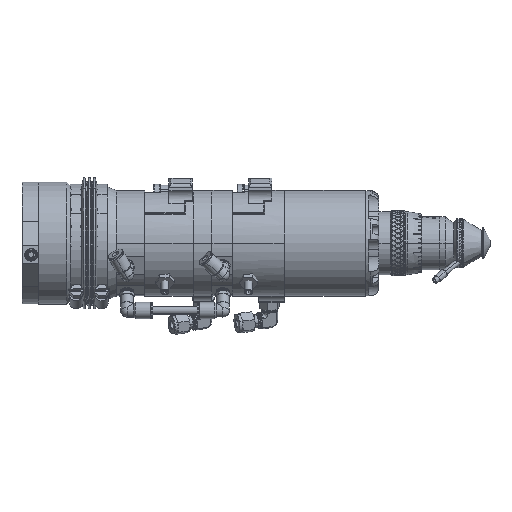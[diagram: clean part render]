
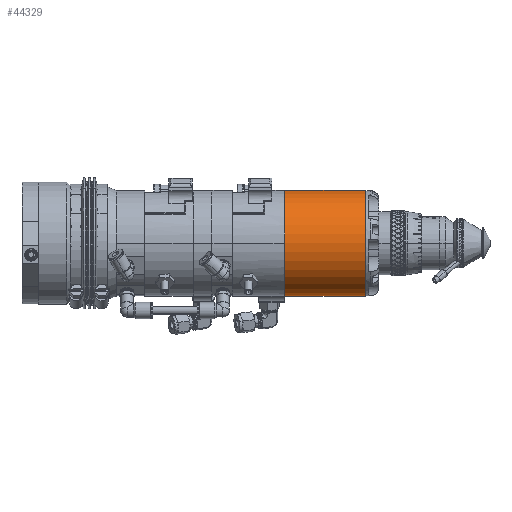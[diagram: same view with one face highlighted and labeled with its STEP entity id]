
A CAD part, left-side view. The second image highlights one B-rep face of the part: STEP entity #44329.
In plain terms, the highlighted cylindrical face has radius 41.275 mm (diameter 82.55 mm), a partial arc.
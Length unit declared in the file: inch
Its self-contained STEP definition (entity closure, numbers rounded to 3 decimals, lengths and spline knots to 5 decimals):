
#3245 = DIRECTION ( 'NONE',  ( 0., 1., 0. ) ) ;
#11021 = DIRECTION ( 'NONE',  ( 0., -1., 0. ) ) ;
#19013 = AXIS2_PLACEMENT_3D ( 'NONE', #127313, #3245, #154979 ) ;
#23139 = ORIENTED_EDGE ( 'NONE', *, *, #47710, .T. ) ;
#24115 = LINE ( 'NONE', #84485, #32703 ) ;
#26538 = VERTEX_POINT ( 'NONE', #48533 ) ;
#28516 = VERTEX_POINT ( 'NONE', #105573 ) ;
#32703 = VECTOR ( 'NONE', #109685, 39.37008 ) ;
#32724 = ORIENTED_EDGE ( 'NONE', *, *, #77100, .T. ) ;
#36899 = DIRECTION ( 'NONE',  ( 0., 0., -1. ) ) ;
#44329 = ADVANCED_FACE ( 'Defeatured_8616', ( #101211 ), #66824, .T. ) ;
#47710 = EDGE_CURVE ( 'Defeatured_8616+Defeatured_8615+Defeatured_8615+Defeatured_8615', #26538, #140975, #49061, .T. ) ;
#48533 = CARTESIAN_POINT ( 'NONE',  ( 0., -5.188, 1.625 ) ) ;
#49061 = CIRCLE ( 'NONE', #91136, 1.625 ) ;
#63869 = AXIS2_PLACEMENT_3D ( 'NONE', #87209, #140201, #154584 ) ;
#66824 = CYLINDRICAL_SURFACE ( 'NONE', #63869, 1.625 ) ;
#77100 = EDGE_CURVE ( 'Defeatured_8616+Defeatured_8617+Defeatured_8617+Defeatured_8617', #114816, #28516, #166225, .T. ) ;
#83407 = ORIENTED_EDGE ( 'NONE', *, *, #96788, .T. ) ;
#84485 = CARTESIAN_POINT ( 'NONE',  ( 0., -15.09819, -1.625 ) ) ;
#87209 = CARTESIAN_POINT ( 'NONE',  ( 0., -15.09819, 0. ) ) ;
#91134 = CARTESIAN_POINT ( 'NONE',  ( 0., -5.188, 0. ) ) ;
#91136 = AXIS2_PLACEMENT_3D ( 'NONE', #91134, #11021, #36899 ) ;
#96788 = EDGE_CURVE ( 'NONE', #28516, #26538, #161857, .T. ) ;
#101211 = FACE_OUTER_BOUND ( 'NONE', #112658, .T. ) ;
#105573 = CARTESIAN_POINT ( 'NONE',  ( 0., -7.673, 1.625 ) ) ;
#109685 = DIRECTION ( 'NONE',  ( 0., 1., 0. ) ) ;
#109809 = CARTESIAN_POINT ( 'NONE',  ( 0., -5.188, -1.625 ) ) ;
#112658 = EDGE_LOOP ( 'NONE', ( #142988, #32724, #83407, #23139 ) ) ;
#114816 = VERTEX_POINT ( 'NONE', #116958 ) ;
#116612 = VECTOR ( 'NONE', #166419, 39.37008 ) ;
#116958 = CARTESIAN_POINT ( 'NONE',  ( 0., -7.673, -1.625 ) ) ;
#127313 = CARTESIAN_POINT ( 'NONE',  ( 0., -7.673, 0. ) ) ;
#137055 = CARTESIAN_POINT ( 'NONE',  ( 0., -15.09819, 1.625 ) ) ;
#140201 = DIRECTION ( 'NONE',  ( 0., 1., 0. ) ) ;
#140975 = VERTEX_POINT ( 'NONE', #109809 ) ;
#142988 = ORIENTED_EDGE ( 'NONE', *, *, #158543, .F. ) ;
#154584 = DIRECTION ( 'NONE',  ( 0., 0., 1. ) ) ;
#154979 = DIRECTION ( 'NONE',  ( 0., 0., 1. ) ) ;
#158543 = EDGE_CURVE ( 'NONE', #114816, #140975, #24115, .T. ) ;
#161857 = LINE ( 'NONE', #137055, #116612 ) ;
#166225 = CIRCLE ( 'NONE', #19013, 1.625 ) ;
#166419 = DIRECTION ( 'NONE',  ( 0., 1., 0. ) ) ;
